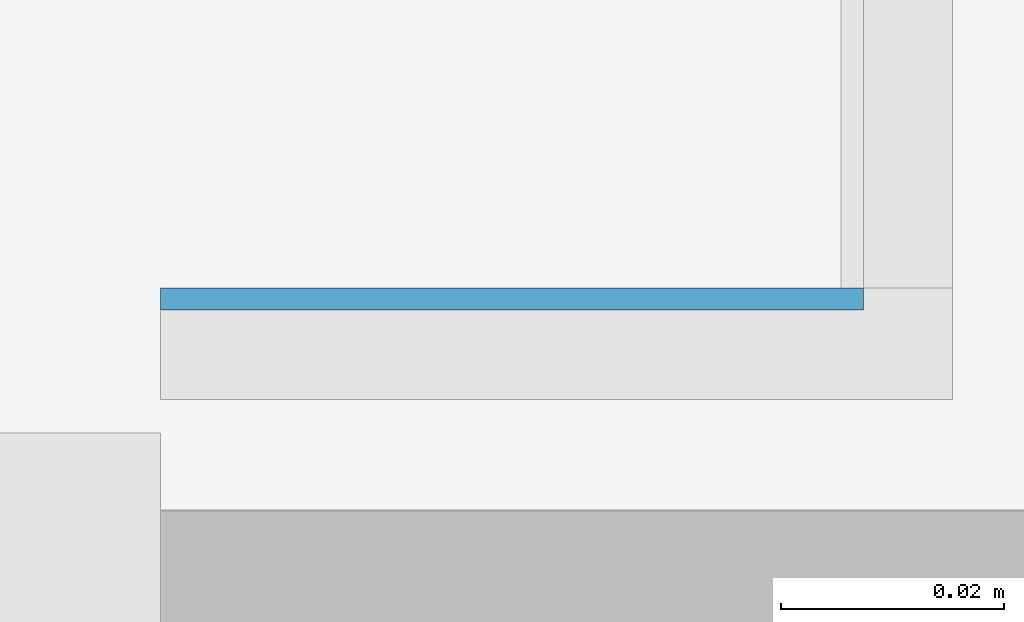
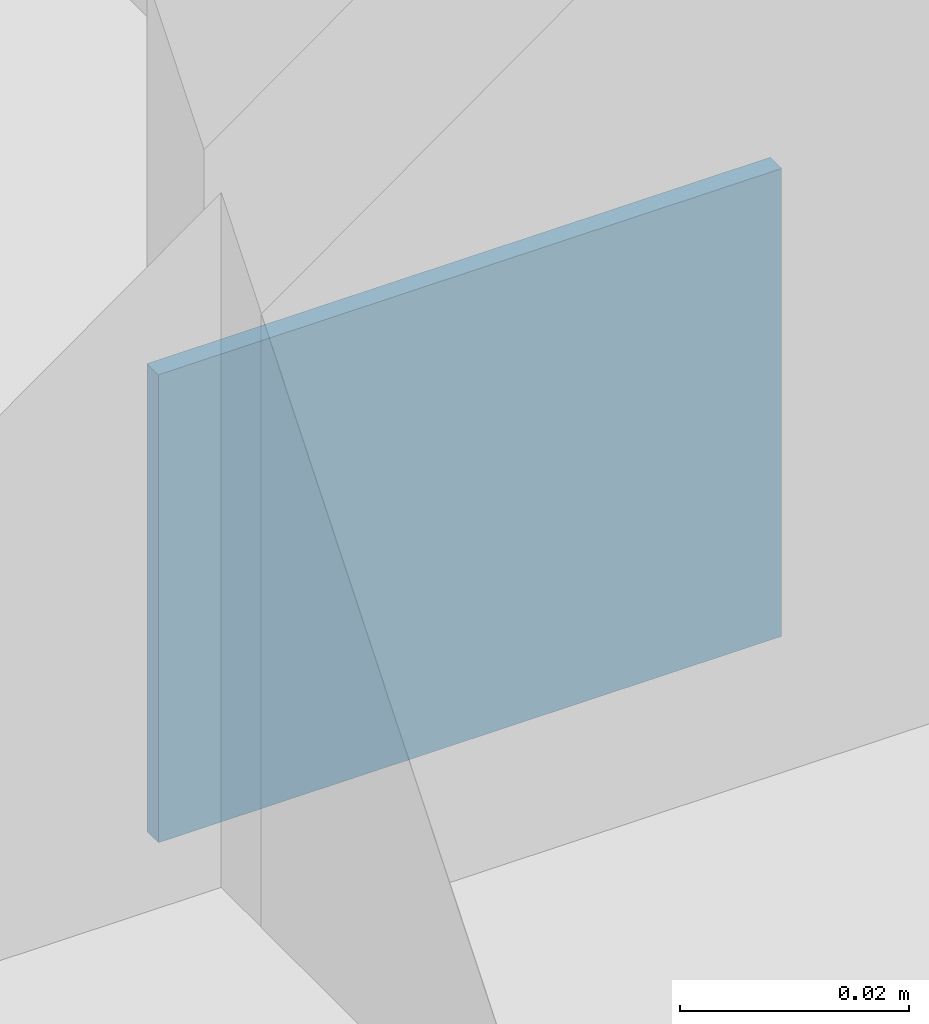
# One storey, part 149 of 347: 1 building element part, 1 element without a shape of its own.
"""IFC2X3 building model written with IfcOpenShell, lengths in millimetres."""

from ifc_helpers import new_model, entity, si_unit, converted_unit, derived_unit, money_unit, direction, frame, origin_with_axes, place, context, subcontext, project, spatial, faceted_brep, material, type_object, element, aggregate, save


model = new_model("IFC2X3")

# Units and contexts
model_context = context("Model", 3, precision=0.01, world=origin_with_axes(), true_north=direction((0.0, 1.0)))
plan_context = context("Plan", 3, precision=0.01, world=origin_with_axes(), true_north=direction((0.0, 1.0)))
body_context = subcontext(model_context, "Body", "Model", "MODEL_VIEW")
ifc_project = project(units=[si_unit("LENGTHUNIT", "METRE", prefix="MILLI"), si_unit("AREAUNIT", "SQUARE_METRE"), si_unit("VOLUMEUNIT", "CUBIC_METRE"), converted_unit("PLANEANGLEUNIT", "DEGREE", entity("IfcPlaneAngleMeasure", 0.0174532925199), si_unit("PLANEANGLEUNIT", "RADIAN"), dimensions=[0, 0, 0, 0, 0, 0, 0]), money_unit("EUR"), converted_unit("TIMEUNIT", "Year", entity("IfcTimeMeasure", 31556926.0), si_unit("TIMEUNIT", "SECOND"), dimensions=[0, 0, 1, 0, 0, 0, 0]), si_unit("MASSUNIT", "GRAM", prefix="KILO"), si_unit("THERMODYNAMICTEMPERATUREUNIT", "DEGREE_CELSIUS"), si_unit("LUMINOUSINTENSITYUNIT", "LUMEN"), si_unit("ENERGYUNIT", "JOULE", prefix="MEGA"), derived_unit("THERMALCONDUCTANCEUNIT", [(si_unit("POWERUNIT", "WATT"), 1), (si_unit("LENGTHUNIT", "METRE"), -1), (si_unit("THERMODYNAMICTEMPERATUREUNIT", "KELVIN"), -1)]), derived_unit("SPECIFICHEATCAPACITYUNIT", [(si_unit("ENERGYUNIT", "JOULE"), 1), (si_unit("MASSUNIT", "GRAM", prefix="KILO"), -1), (si_unit("THERMODYNAMICTEMPERATUREUNIT", "KELVIN"), -1)]), derived_unit("MASSDENSITYUNIT", [(si_unit("MASSUNIT", "GRAM", prefix="KILO"), 1), (si_unit("VOLUMEUNIT", "CUBIC_METRE"), -1)])], contexts=[model_context, plan_context])

# Site, building, storey
site_placement = place(None, origin_with_axes())
site = spatial("IfcSite", under=ifc_project, at=site_placement, Name="Site", CompositionType="ELEMENT")
building_placement = place(site_placement, origin_with_axes())
building = spatial("IfcBuilding", under=site, at=building_placement, Name="Naam gebouw", CompositionType="ELEMENT")
storey_placement = place(building_placement, origin_with_axes())
storey = spatial("IfcBuildingStorey", under=building, at=storey_placement, Name="begane grond", CompositionType="ELEMENT", Elevation=0.0)

# Proxy, building element part
building_element_proxy_type = type_object("IfcBuildingElementProxyType", Name="wandtegels 150x300 2600+ 10 x 2600", PredefinedType="NOTDEFINED")
proxy_placement = place(storey_placement, frame((15714.0, 15025.0, 0.0), z_axis=(0.0, 0.0, 1.0), x_axis=(1.0, 0.0, 0.0)))
proxy = element("IfcBuildingElementProxy", 1, at=proxy_placement, inside=storey, type_object=building_element_proxy_type, Name="42_52 wandtegels keramisch")
ifc_material = material(Name="48 vloeivloer Bolidt")
building_element_part_placement = place(proxy_placement, origin_with_axes())
building_element_part = element("IfcBuildingElementPart", 2, at=building_element_part_placement, material=ifc_material, Name="48 vloeivloer Bolidt", context=body_context, shape_type="Brep", body=[
    faceted_brep([(62.9999970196, 8.00001490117, 50.0000059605), (62.9999970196, 10.0000089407, 50.0000059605), (0.0, 10.0000089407, 50.0000059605), (0.0, 8.00001490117, 50.0000059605), (62.9999970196, 10.0000089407, 0.0), (62.9999970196, 8.00001490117, 0.0), (0.0, 10.0000089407, 0.0), (0.0, 8.00001490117, 0.0)], [[[0, 1, 2, 3]], [[4, 1, 0, 5]], [[1, 4, 6, 2]], [[2, 6, 7, 3]], [[5, 0, 3, 7]], [[4, 5, 7, 6]]]),
])
aggregate(proxy, [building_element_part])

save(model, "model.ifc")
